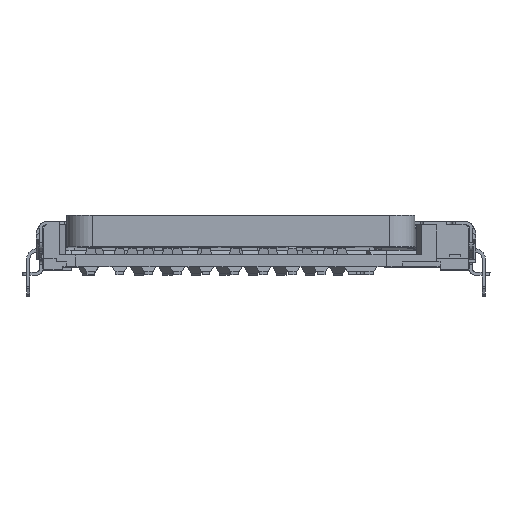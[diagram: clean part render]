
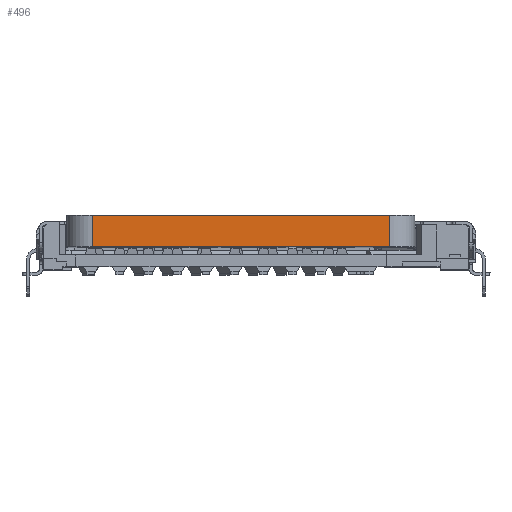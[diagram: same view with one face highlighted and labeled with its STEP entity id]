
A CAD part, top view. The second image highlights one B-rep face of the part: STEP entity #496.
In plain terms, the highlighted planar face has unit normal (0, 0, 1).
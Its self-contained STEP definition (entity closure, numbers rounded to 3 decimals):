
#353 = EDGE_CURVE ( 'NONE', #71261, #54461, #33433, .T. ) ;
#496 = ADVANCED_FACE ( 'NONE', ( #41200 ), #35997, .F. ) ;
#5438 = VECTOR ( 'NONE', #30638, 1000. ) ;
#6039 = LINE ( 'NONE', #68449, #11848 ) ;
#7588 = AXIS2_PLACEMENT_3D ( 'NONE', #25228, #70201, #52734 ) ;
#11700 = CARTESIAN_POINT ( 'NONE',  ( -4.05, 0., 7.5 ) ) ;
#11848 = VECTOR ( 'NONE', #28689, 1000. ) ;
#19148 = LINE ( 'NONE', #58892, #5438 ) ;
#21063 = VECTOR ( 'NONE', #69680, 1000. ) ;
#21938 = ORIENTED_EDGE ( 'NONE', *, *, #47270, .T. ) ;
#22274 = DIRECTION ( 'NONE',  ( 0., -1., 0. ) ) ;
#24707 = LINE ( 'NONE', #65206, #21063 ) ;
#25228 = CARTESIAN_POINT ( 'NONE',  ( -4.05, 0.7, 7.5 ) ) ;
#28635 = EDGE_CURVE ( 'NONE', #36852, #54461, #19148, .T. ) ;
#28689 = DIRECTION ( 'NONE',  ( 0., -1., 0. ) ) ;
#30638 = DIRECTION ( 'NONE',  ( 1., 0., 0. ) ) ;
#32580 = CARTESIAN_POINT ( 'NONE',  ( 5.35, 1., 7.5 ) ) ;
#33433 = LINE ( 'NONE', #73196, #47901 ) ;
#35997 = PLANE ( 'NONE',  #7588 ) ;
#36852 = VERTEX_POINT ( 'NONE', #11700 ) ;
#37764 = CARTESIAN_POINT ( 'NONE',  ( 5.35, 0., 7.5 ) ) ;
#41200 = FACE_OUTER_BOUND ( 'NONE', #67897, .T. ) ;
#47196 = CARTESIAN_POINT ( 'NONE',  ( -4.05, 1., 7.5 ) ) ;
#47270 = EDGE_CURVE ( 'NONE', #71870, #36852, #6039, .T. ) ;
#47901 = VECTOR ( 'NONE', #22274, 1000. ) ;
#48642 = ORIENTED_EDGE ( 'NONE', *, *, #71604, .F. ) ;
#52734 = DIRECTION ( 'NONE',  ( -1., 0., 0. ) ) ;
#54461 = VERTEX_POINT ( 'NONE', #37764 ) ;
#58892 = CARTESIAN_POINT ( 'NONE',  ( -4.05, 0., 7.5 ) ) ;
#65206 = CARTESIAN_POINT ( 'NONE',  ( -4.05, 1., 7.5 ) ) ;
#67897 = EDGE_LOOP ( 'NONE', ( #69270, #70436, #48642, #21938 ) ) ;
#68449 = CARTESIAN_POINT ( 'NONE',  ( -4.05, 0.7, 7.5 ) ) ;
#69270 = ORIENTED_EDGE ( 'NONE', *, *, #28635, .T. ) ;
#69680 = DIRECTION ( 'NONE',  ( 1., 0., 0. ) ) ;
#70201 = DIRECTION ( 'NONE',  ( 0., 0., -1. ) ) ;
#70436 = ORIENTED_EDGE ( 'NONE', *, *, #353, .F. ) ;
#71261 = VERTEX_POINT ( 'NONE', #32580 ) ;
#71604 = EDGE_CURVE ( 'NONE', #71870, #71261, #24707, .T. ) ;
#71870 = VERTEX_POINT ( 'NONE', #47196 ) ;
#73196 = CARTESIAN_POINT ( 'NONE',  ( 5.35, 0.7, 7.5 ) ) ;
